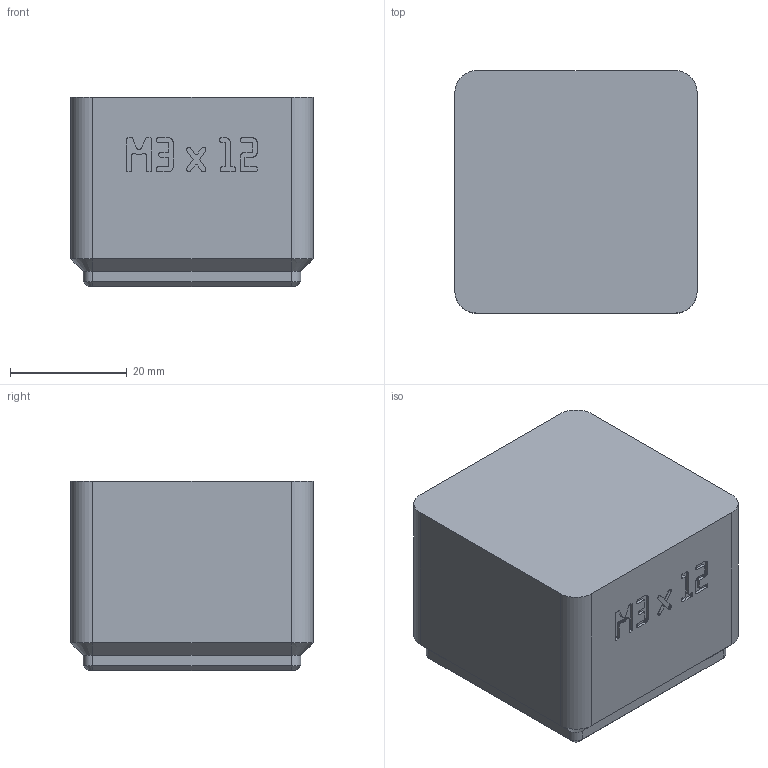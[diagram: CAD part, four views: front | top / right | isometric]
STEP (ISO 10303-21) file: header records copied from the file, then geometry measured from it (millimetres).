
FILE_DESCRIPTION(('Open CASCADE Model'),'2;1');
FILE_NAME('Open CASCADE Shape Model','2026-11-03T16:22:02',('Author'),( 'Open CASCADE'),'Open CASCADE STEP processor 8.0','build123d', 'Unknown');
FILE_SCHEMA(('AUTOMOTIVE_DESIGN { 1 0 10303 214 1 1 1 1 }'));
Products named in the file (1): COMPOUND
Bounding box: 41.5 x 41.5 x 32.4 mm (x, y, z)
Volume: 15958.2 mm3; surface area: 15730.7 mm2
Topology: 1 solids, 2 shells, 1153 faces, 3374 edges, 2236 vertices
Faces by surface type: plane 1117, cylinder 16, cone 12, bspline 8
Entity records: 81206 total; most frequent: CARTESIAN_POINT 13776, DIRECTION 12314, LINE 9918, VECTOR 9918, ORIENTED_EDGE 6748, PCURVE 6748, DEFINITIONAL_REPRESENTATION 6748, EDGE_CURVE 3374
